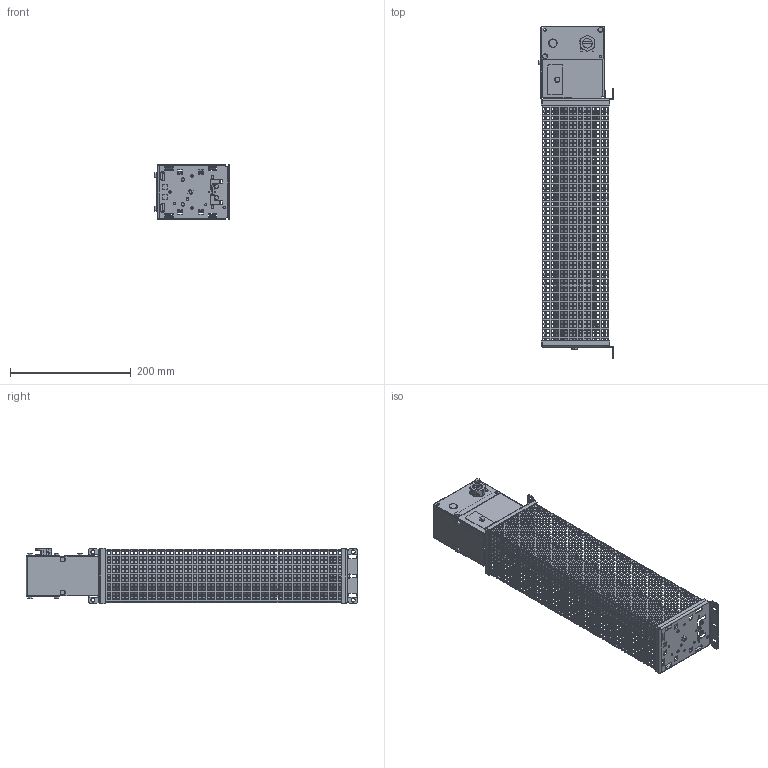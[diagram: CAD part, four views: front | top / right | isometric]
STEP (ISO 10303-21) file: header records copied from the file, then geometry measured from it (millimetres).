
FILE_DESCRIPTION (( 'STEP AP203' ), '1' );
FILE_NAME ('BAR500-15-Step.STEP', '2011-09-13T06:51:18', ( 'Frizlen' ), ( 'Frizlen' ), 'SwSTEP 2.0', 'SolidWorks 2010', '' );
FILE_SCHEMA (( 'CONFIG_CONTROL_DESIGN' ));
Products named in the file (21): Gewindestab-M5-verzinkt_420; Seitenteil FZEvorne; Vierkantmutter DIN 562-M5; ISO 1207 - M4 x 16 --- 16N_ISO 1207 - M4 x 16 --- 16N; 110308-Klemmenkasten C Deckel; Druckschraube PG16; Gewindefurchschraube SK M4x6; Blindstopfen; BAR500-15-Step; FZ400x60montiert; Rohr x60_400x60; Schelle-X65; 10784-Zentrierscheibe-x60; Zementmasse x60_FZ400x65; 1103074-Klemmenkasten SEW 2008; 1103075-Verschraubungsblech-PG16-M12x1,5; 1103075-Klemmenkasten SEW Verschraubungsblech-ohne ; Typenschild-50x25; Abdeckung-FZE400x65; Seitenteil FZE hinten; Sechskantmutter DIN 934-M5
Assembly tree (35 placements, depth 3):
  BAR500-15-Step
    Sechskantmutter DIN 934-M5  x2
    1103075-Klemmenkasten SEW Verschraubungsblech-ohne 
    Gewindefurchschraube SK M4x6  x9
    1103074-Klemmenkasten SEW 2008
    FZ400x60montiert
      Schelle-X65  x2
      Sechskantmutter DIN 934-M5  x2
      ISO 1207 - M4 x 16 --- 16N_ISO 1207 - M4 x 16 --- 16N  x2
      10784-Zentrierscheibe-x60  x2
      Rohr x60_400x60
      Gewindestab-M5-verzinkt_420
      Vierkantmutter DIN 562-M5  x2
      Zementmasse x60_FZ400x65
    Blindstopfen
    Abdeckung-FZE400x65
    1103075-Verschraubungsblech-PG16-M12x1,5
    Seitenteil FZE hinten
    Seitenteil FZEvorne
    110308-Klemmenkasten C Deckel
    Druckschraube PG16
    Typenschild-50x25
Bounding box: 123.98 x 549.93 x 92.7 mm (x, y, z)
Volume: 796450.6 mm3; surface area: 662634.1 mm2
Topology: 34 solids, 34 shells, 10875 faces, 32314 edges, 21112 vertices
Faces by surface type: plane 10261, cylinder 491, torus 56, cone 35, bspline 32
Full cylindrical faces by diameter (mm): 60 x2
Entity records: 361154 total; most frequent: CARTESIAN_POINT 63987, ORIENTED_EDGE 63262, DIRECTION 54253, EDGE_CURVE 31631, VECTOR 29841, LINE 29841, VERTEX_POINT 20698, EDGE_LOOP 14933
